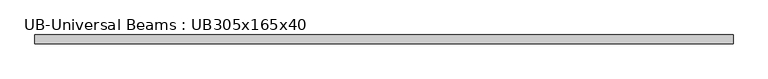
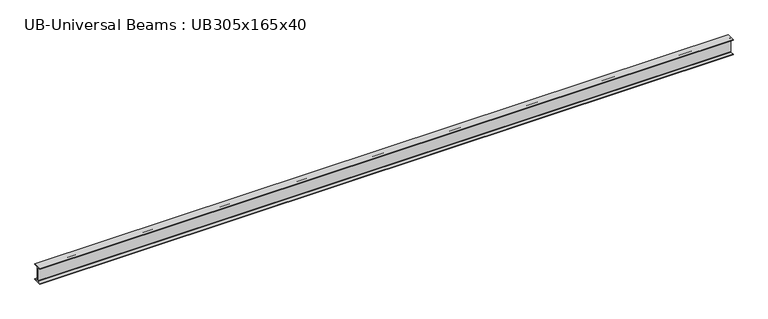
"""IFC4 building model written with IfcOpenShell, lengths in millimetres: beam geometry, UB-Universal Beams : UB305x165x40."""

from ifc_helpers import new_model, si_unit, point, frame, frame_2d, origin, place, context, project, spatial, polyline, circle_curve, trimmed, segment, composite_curve, outline, extrude, source, transform, mapped, element, save


def ub_universal_beams_ub305x165x40_e7aacc84(model_context):
    return source(origin(), model_context, "Body", "SweptSolid", [
        extrude(outline(composite_curve([segment(polyline([(82.5, -141.5), (82.5, -151.7), (-82.5, -151.7), (-82.5, -141.5), (-11.9, -141.5)]), True, "CONTINUOUS"), segment(trimmed(circle_curve(frame_2d((-11.9, -132.6)), 8.9), [point((-11.9, -141.5))], [point((-3.0, -132.6))], True, "CARTESIAN"), True, "CONTINUOUS"), segment(polyline([(-3.0, -132.6), (-3.0, 132.6)]), True, "CONTINUOUS"), segment(trimmed(circle_curve(frame_2d((-11.9, 132.6)), 8.9), [point((-3.0, 132.6))], [point((-11.9, 141.5))], True, "CARTESIAN"), True, "CONTINUOUS"), segment(polyline([(-11.9, 141.5), (-82.5, 141.5), (-82.5, 151.7), (82.5, 151.7), (82.5, 141.5), (11.9, 141.5)]), True, "CONTINUOUS"), segment(trimmed(circle_curve(frame_2d((11.9, 132.6)), 8.9), [point((11.9, 141.5))], [point((3.0, 132.6))], True, "CARTESIAN"), True, "CONTINUOUS"), segment(polyline([(3.0, 132.6), (3.0, -132.6)]), True, "CONTINUOUS"), segment(trimmed(circle_curve(frame_2d((11.9, -132.6)), 8.9), [point((3.0, -132.6))], [point((11.9, -141.5))], True, "CARTESIAN"), True, "CONTINUOUS"), segment(polyline([(11.9, -141.5), (82.5, -141.5)]), True, "CONTINUOUS")], self_intersect=False)), frame((-6614.0, 0.0, 0.0), z_axis=(1.0, 0.0, 0.0), x_axis=(0.0, 1.0, 0.0)), (0.0, 0.0, 1.0), 13175.4),
    ])


if __name__ == "__main__":
    model = new_model("IFC4")
    model_context = context("Model", 3, world=origin())
    ifc_project = project(units=[si_unit("LENGTHUNIT", "METRE", prefix="MILLI")], contexts=[model_context])
    site = spatial("IfcSite", under=ifc_project)
    building = spatial("IfcBuilding", under=site)
    placement = place(None, origin())
    ub_universal_beams_ub305x165x40_shape = ub_universal_beams_ub305x165x40_e7aacc84(model_context)
    element("IfcBeam", 1, ObjectType="UB-Universal Beams : UB305x165x40", at=placement, inside=building, context=model_context, shape_type="MappedRepresentation", body=[
        mapped(ub_universal_beams_ub305x165x40_shape, transform((0.0, 0.0, 0.0), x_axis=(1.0, 0.0, 0.0), y_axis=(0.0, 1.0, 0.0), z_axis=(0.0, 0.0, 1.0))),
    ])
    save(model, "model.ifc")
